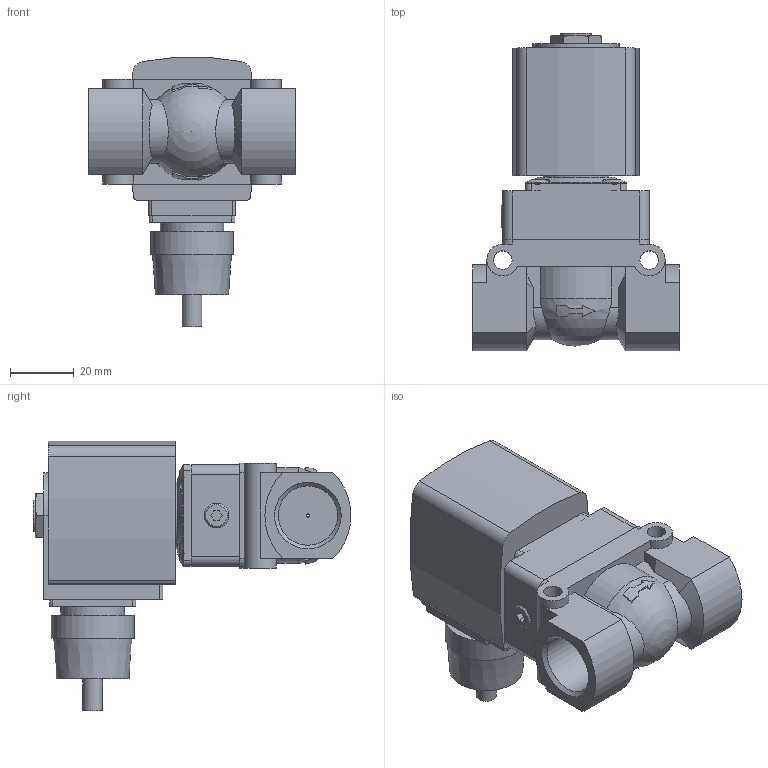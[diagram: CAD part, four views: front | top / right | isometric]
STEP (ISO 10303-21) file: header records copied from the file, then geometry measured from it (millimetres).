
FILE_DESCRIPTION(/* description */ ('STEP AP214'),/* implementation_level */ '2;1');
FILE_NAME(/* name */ '5404-349304-Servo-assisted_2_2_way_piston_valve',/* time_stamp */ '2024-02-29T09:43:46+01:00',/* author */ ('License CC BY-ND 4.0'),/* organization */ ('CADENAS'),/* preprocessor_version */ 'ST-DEVELOPER v19.3',/* originating_system */ 'PARTsolutions',/* authorisation */ ' ');
FILE_SCHEMA (('MODEL_BASED_INTEGRATED_MANUFACTURING_SCHEMA','AUTOMOTIVE_DESIGN {1 0 10303 214 3 1 1}'));
Length unit declared in the file: millimetre
Products named in the file (4): 5404-349304-Servo-assisted 2/2 way piston valve; 5282g-8412MS000-2/2-Wege-Magnetventil_Gehaeuse; 5282d-12MSBU3J-2/2-Wege-Magnetventil_Deckel; AC10ex-6ATEXKabelPlan-Coil
Assembly tree (3 placements, depth 2):
  5404-349304-Servo-assisted 2/2 way piston valve
    5282g-8412MS000-2/2-Wege-Magnetventil_Gehaeuse
    5282d-12MSBU3J-2/2-Wege-Magnetventil_Deckel
    AC10ex-6ATEXKabelPlan-Coil
Bounding box: 65 x 99.8 x 84.63 mm (x, y, z)
Volume: 156837.9 mm3; surface area: 32661.7 mm2
Topology: 3 solids, 3 shells, 203 faces, 501 edges, 327 vertices
Faces by surface type: plane 115, cylinder 63, cone 17, torus 5, sphere 3
Full cylindrical faces by diameter (mm): 1 x1, 4 x4, 5.8 x2, 6.2 x1, 7.5 x4, 7.6 x4, 7.8 x1, 9.74 x1, 18.631 x2, 20 x1, 21 x1, 26 x1
Entity records: 6316 total; most frequent: CARTESIAN_POINT 1107, DIRECTION 1038, ORIENTED_EDGE 912, EDGE_CURVE 456, AXIS2_PLACEMENT_3D 407, VERTEX_POINT 316, EDGE_LOOP 266, FACE_BOUND 266
